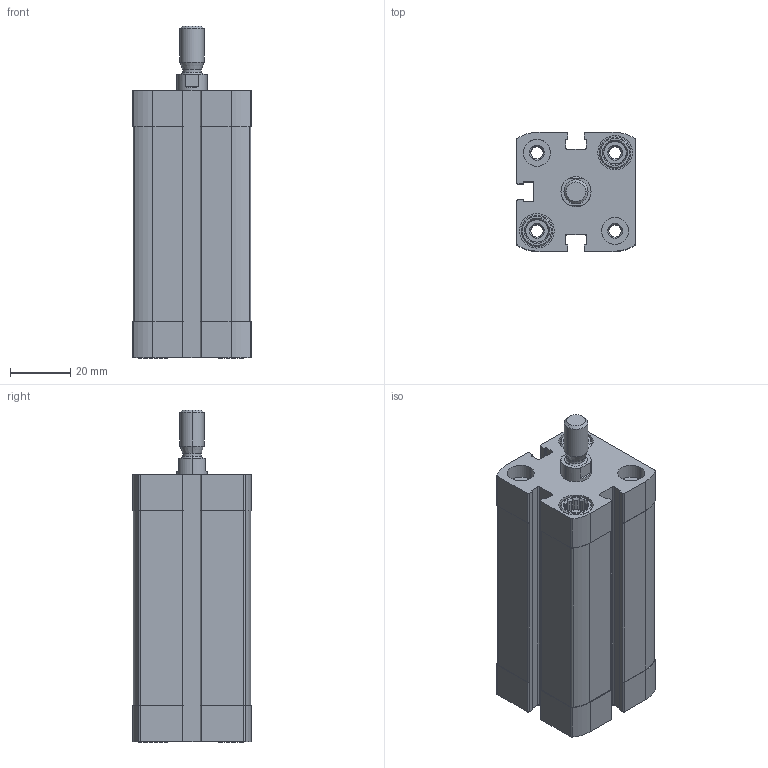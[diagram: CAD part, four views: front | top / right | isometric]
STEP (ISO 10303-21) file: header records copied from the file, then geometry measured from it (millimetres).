
FILE_DESCRIPTION (( 'STEP AP203' ), '1' );
FILE_NAME ('CCN25-50M.STEP', '2017-04-06T12:24:06', ( '' ), ( '' ), 'SwSTEP 2.0', 'SolidWorks 2016', '' );
FILE_SCHEMA (( 'CONFIG_CONTROL_DESIGN' ));
Length unit declared in the file: millimetre
Products named in the file (3): CCN-50---(Z); CCN-50_(KS); CCN25-50M
Assembly tree (2 placements, depth 2):
  CCN25-50M
    CCN-50---(Z)
    CCN-50_(KS)
Bounding box: 39.5 x 39.5 x 110.5 mm (x, y, z)
Volume: 97492.3 mm3; surface area: 37584.9 mm2
Topology: 2 solids, 2 shells, 409 faces, 1078 edges, 704 vertices
Faces by surface type: plane 231, cylinder 134, cone 40, bspline 4
Entity records: 13173 total; most frequent: CARTESIAN_POINT 2556, DIRECTION 2210, ORIENTED_EDGE 2156, EDGE_CURVE 1078, AXIS2_PLACEMENT_3D 822, VERTEX_POINT 704, LINE 566, VECTOR 566
